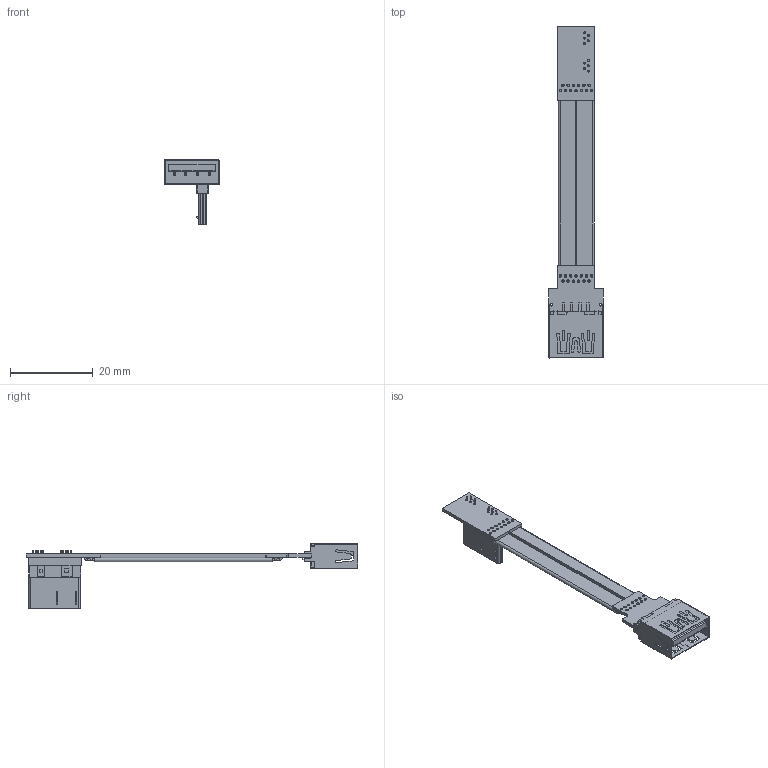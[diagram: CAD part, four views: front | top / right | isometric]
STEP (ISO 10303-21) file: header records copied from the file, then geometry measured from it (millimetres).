
FILE_DESCRIPTION(('Open CASCADE Model'),'2;1');
FILE_NAME('Open CASCADE Shape Model','2022-04-17T17:25:23',('Author'),( 'Open CASCADE'),'Open CASCADE STEP processor 6.8','Open CASCADE 6.8' ,'Unknown');
FILE_SCHEMA(('AUTOMOTIVE_DESIGN { 1 0 10303 214 1 1 1 1 }'));
Length unit declared in the file: millimetre
Products named in the file (53): PCB; Board; Open CASCADE STEP translator 6.8 11.1.1; _1; USB_傻遴20211224(5); Designator22; micro_usb_3.0; Free-Models; cable13-US2A
Assembly tree (52 placements, depth 3):
  PCB
    Board
      Open CASCADE STEP translator 6.8 11.1.1
    _1
      USB_傻遴20211224(5)
      USB_傻遴20211224(5)
      USB_傻遴20211224(5)
      USB_傻遴20211224(5)
      USB_傻遴20211224(5)
      USB_傻遴20211224(5)
      USB_傻遴20211224(5)
      USB_傻遴20211224(5)
      USB_傻遴20211224(5)
      USB_傻遴20211224(5)
      USB_傻遴20211224(5)
      USB_傻遴20211224(5)
      USB_傻遴20211224(5)
      USB_傻遴20211224(5)
      USB_傻遴20211224(5)
      USB_傻遴20211224(5)
      USB_傻遴20211224(5)
      USB_傻遴20211224(5)
      USB_傻遴20211224(5)
    Designator22
      micro_usb_3.0
    Free-Models
      cable13-US2A
      cable13-US2A
      cable13-US2A
      cable13-US2A
      cable13-US2A
      cable13-US2A
      cable13-US2A
      cable13-US2A
      cable13-US2A
      cable13-US2A
      cable13-US2A
      cable13-US2A
      cable13-US2A
      cable13-US2A
      cable13-US2A
      cable13-US2A
      cable13-US2A
      cable13-US2A
      cable13-US2A
      cable13-US2A
      cable13-US2A
      cable13-US2A
      cable13-US2A
      cable13-US2A
      cable13-US2A
      cable13-US2A
      cable13-US2A
Bounding box: 13.25 x 80.28 x 15.58 mm (x, y, z)
Volume: 1247.5 mm3; surface area: 4041.7 mm2
Topology: 48 solids, 48 shells, 978 faces, 2507 edges, 1648 vertices
Faces by surface type: plane 603, cylinder 349, torus 26
Full cylindrical faces by diameter (mm): 0.4 x65, 0.45 x10, 0.6 x26
Entity records: 38976 total; most frequent: CARTESIAN_POINT 5407, DIRECTION 5179, ORIENTED_EDGE 5014, EDGE_CURVE 2507, AXIS2_PLACEMENT_3D 1732, LINE 1715, VECTOR 1715, VERTEX_POINT 1648
